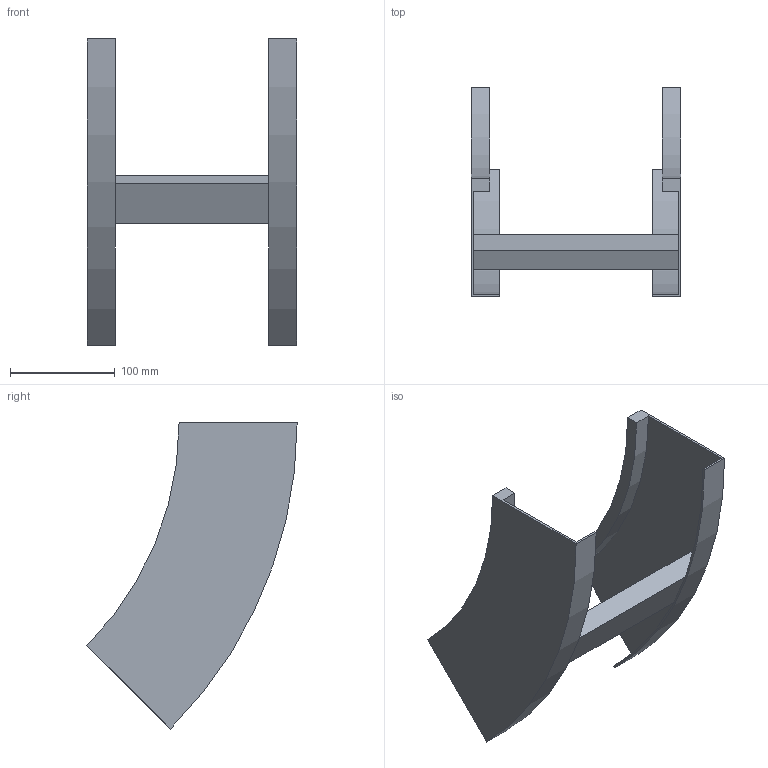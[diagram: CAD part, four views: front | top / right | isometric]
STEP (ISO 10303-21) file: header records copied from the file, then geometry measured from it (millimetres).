
FILE_DESCRIPTION (( 'STEP AP214' ), '1' );
FILE_NAME ('B2X31B3J200XX.step', '2025-03-20T10:07:41', ( '' ), ( '' ), 'SwSTEP 2.0', 'SolidWorks 2023', '' );
FILE_SCHEMA (( 'AUTOMOTIVE_DESIGN' ));
Length unit declared in the file: millimetre
Products named in the file (3): TRAVERSINO_200; B2X31B3J200XX; B2_LONGH.SALITA_45°_H112.5_R300
Assembly tree (3 placements, depth 2):
  B2X31B3J200XX
    B2_LONGH.SALITA_45°_H112.5_R300  x2
    TRAVERSINO_200
Bounding box: 200 x 200.37 x 291.68 mm (x, y, z)
Volume: 409275.7 mm3; surface area: 203051.9 mm2
Topology: 3 solids, 3 shells, 26 faces, 60 edges, 40 vertices
Faces by surface type: plane 18, cylinder 8
Entity records: 544 total; most frequent: DIRECTION 88, CARTESIAN_POINT 82, ORIENTED_EDGE 72, EDGE_CURVE 36, AXIS2_PLACEMENT_3D 30, LINE 28, VECTOR 28, VERTEX_POINT 24
